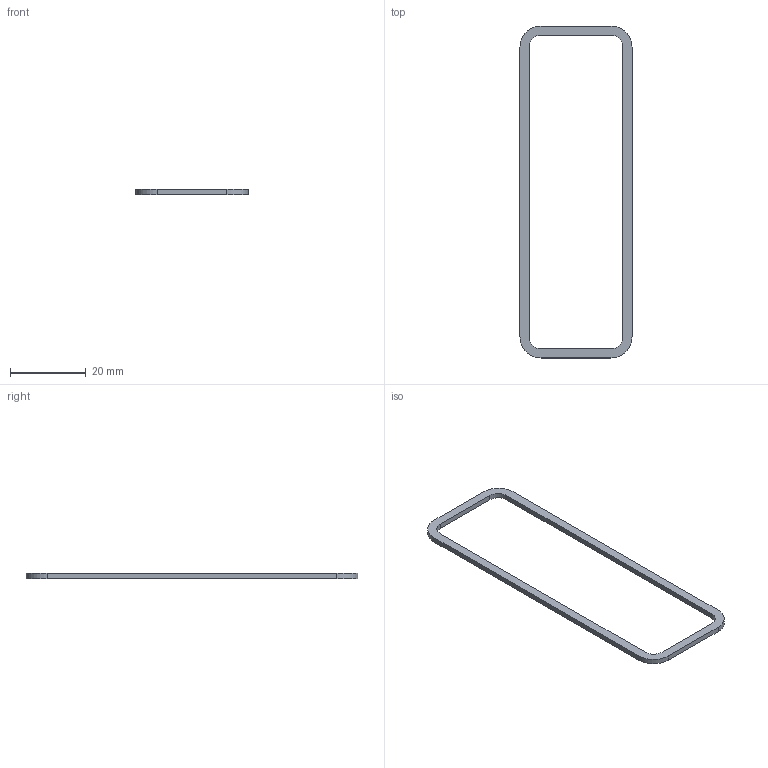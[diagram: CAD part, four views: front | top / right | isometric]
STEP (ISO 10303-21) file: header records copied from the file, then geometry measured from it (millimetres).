
FILE_DESCRIPTION(('Open CASCADE Model'),'2;1');
FILE_NAME('Open CASCADE Shape Model','2026-10-09T15:33:22',('Author'),( 'Open CASCADE'),'Open CASCADE STEP processor 7.9','Open CASCADE 7.9' ,'Unknown');
FILE_SCHEMA(('AUTOMOTIVE_DESIGN { 1 0 10303 214 1 1 1 1 }'));
Length unit declared in the file: millimetre
Products named in the file (1): Open CASCADE STEP translator 7.9 5
Bounding box: 29.6 x 87.6 x 1.4 mm (x, y, z)
Volume: 729.9 mm3; surface area: 1651.1 mm2
Topology: 1 solids, 1 shells, 18 faces, 48 edges, 32 vertices
Faces by surface type: plane 10, cylinder 8
Entity records: 1218 total; most frequent: CARTESIAN_POINT 219, DIRECTION 194, LINE 112, VECTOR 112, ORIENTED_EDGE 96, PCURVE 96, DEFINITIONAL_REPRESENTATION 96, EDGE_CURVE 48
